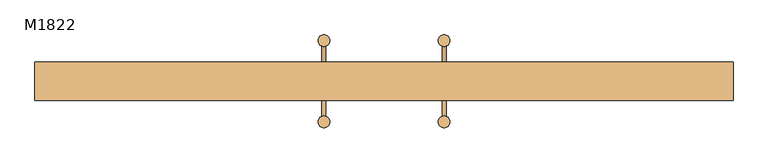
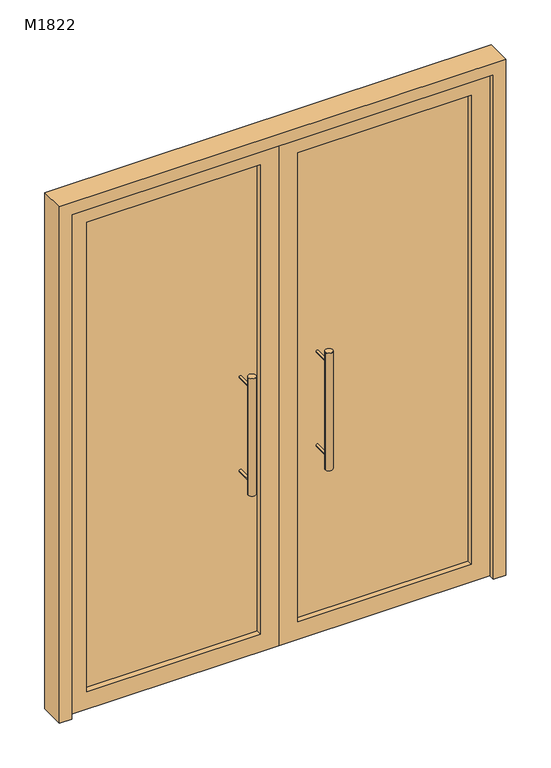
"""IFC4 building model written with IfcOpenShell, lengths in millimetres: door geometry, 双面嵌板玻璃门 : M1822."""

from ifc_helpers import new_model, si_unit, point, frame, frame_2d, origin, place, context, project, spatial, polyline, circle_curve, trimmed, segment, composite_curve, outline, extrude, source, transform, mapped, element, save


def m1822_52daa345(model_context):
    return source(origin(), model_context, "Body", "SweptSolid", [
        extrude(outline(composite_curve([segment(trimmed(circle_curve(frame_2d((155.0, 105.0)), 15.0), [point((140.0, 105.0))], [point((170.0, 105.0))], False, "CARTESIAN"), True, "CONTINUOUS"), segment(trimmed(circle_curve(frame_2d((155.0, 105.0)), 15.0), [point((170.0, 105.0))], [point((140.0, 105.0))], False, "CARTESIAN"), True, "CONTINUOUS")], self_intersect=False)), frame((0.0, 0.0, 750.0), z_axis=(0.0, 0.0, 1.0), x_axis=(1.0, 0.0, 0.0)), (0.0, 0.0, 1.0), 500.0),
        extrude(outline(composite_curve([segment(trimmed(circle_curve(frame_2d((1200.0, 155.0)), 5.0), [point((1200.0, 150.0))], [point((1200.0, 160.0))], False, "CARTESIAN"), True, "CONTINUOUS"), segment(trimmed(circle_curve(frame_2d((1200.0, 155.0)), 5.0), [point((1200.0, 160.0))], [point((1200.0, 150.0))], False, "CARTESIAN"), True, "CONTINUOUS")], self_intersect=False)), frame((0.0, 25.0, 0.0), z_axis=(0.0, 1.0, 0.0), x_axis=(0.0, 0.0, 1.0)), (0.0, 0.0, 1.0), 80.0),
        extrude(outline(composite_curve([segment(trimmed(circle_curve(frame_2d((800.0, 155.0)), 5.0), [point((800.0, 150.0))], [point((800.0, 160.0))], False, "CARTESIAN"), True, "CONTINUOUS"), segment(trimmed(circle_curve(frame_2d((800.0, 155.0)), 5.0), [point((800.0, 160.0))], [point((800.0, 150.0))], False, "CARTESIAN"), True, "CONTINUOUS")], self_intersect=False)), frame((0.0, 25.0, 0.0), z_axis=(0.0, 1.0, 0.0), x_axis=(0.0, 0.0, 1.0)), (0.0, 0.0, 1.0), 80.0),
        extrude(outline(composite_curve([segment(trimmed(circle_curve(frame_2d((1200.0, 155.0)), 5.0), [point((1200.0, 150.0))], [point((1200.0, 160.0))], False, "CARTESIAN"), True, "CONTINUOUS"), segment(trimmed(circle_curve(frame_2d((1200.0, 155.0)), 5.0), [point((1200.0, 160.0))], [point((1200.0, 150.0))], False, "CARTESIAN"), True, "CONTINUOUS")], self_intersect=False)), frame((0.0, -105.0, 0.0), z_axis=(0.0, 1.0, 0.0), x_axis=(0.0, 0.0, 1.0)), (0.0, 0.0, 1.0), 80.0),
        extrude(outline(composite_curve([segment(trimmed(circle_curve(frame_2d((800.0, 155.0)), 5.0), [point((800.0, 150.0))], [point((800.0, 160.0))], False, "CARTESIAN"), True, "CONTINUOUS"), segment(trimmed(circle_curve(frame_2d((800.0, 155.0)), 5.0), [point((800.0, 160.0))], [point((800.0, 150.0))], False, "CARTESIAN"), True, "CONTINUOUS")], self_intersect=False)), frame((0.0, -105.0, 0.0), z_axis=(0.0, 1.0, 0.0), x_axis=(0.0, 0.0, 1.0)), (0.0, 0.0, 1.0), 80.0),
        extrude(outline(composite_curve([segment(trimmed(circle_curve(frame_2d((155.0, -105.0)), 15.0), [point((140.0, -105.0))], [point((170.0, -105.0))], False, "CARTESIAN"), True, "CONTINUOUS"), segment(trimmed(circle_curve(frame_2d((155.0, -105.0)), 15.0), [point((170.0, -105.0))], [point((140.0, -105.0))], False, "CARTESIAN"), True, "CONTINUOUS")], self_intersect=False)), frame((0.0, 0.0, 750.0), z_axis=(0.0, 0.0, 1.0), x_axis=(1.0, 0.0, 0.0)), (0.0, 0.0, 1.0), 500.0),
        extrude(outline(composite_curve([segment(trimmed(circle_curve(frame_2d((-155.0, 105.0)), 15.0), [point((-170.0, 105.0))], [point((-140.0, 105.0))], False, "CARTESIAN"), True, "CONTINUOUS"), segment(trimmed(circle_curve(frame_2d((-155.0, 105.0)), 15.0), [point((-140.0, 105.0))], [point((-170.0, 105.0))], False, "CARTESIAN"), True, "CONTINUOUS")], self_intersect=False)), frame((0.0, 0.0, 750.0), z_axis=(0.0, 0.0, 1.0), x_axis=(1.0, 0.0, 0.0)), (0.0, 0.0, 1.0), 500.0),
        extrude(outline(composite_curve([segment(trimmed(circle_curve(frame_2d((1200.0, -155.0)), 5.0), [point((1200.0, -160.0))], [point((1200.0, -150.0))], False, "CARTESIAN"), True, "CONTINUOUS"), segment(trimmed(circle_curve(frame_2d((1200.0, -155.0)), 5.0), [point((1200.0, -150.0))], [point((1200.0, -160.0))], False, "CARTESIAN"), True, "CONTINUOUS")], self_intersect=False)), frame((0.0, 25.0, 0.0), z_axis=(0.0, 1.0, 0.0), x_axis=(0.0, 0.0, 1.0)), (0.0, 0.0, 1.0), 80.0),
        extrude(outline(composite_curve([segment(trimmed(circle_curve(frame_2d((800.0, -155.0)), 5.0), [point((800.0, -160.0))], [point((800.0, -150.0))], False, "CARTESIAN"), True, "CONTINUOUS"), segment(trimmed(circle_curve(frame_2d((800.0, -155.0)), 5.0), [point((800.0, -150.0))], [point((800.0, -160.0))], False, "CARTESIAN"), True, "CONTINUOUS")], self_intersect=False)), frame((0.0, 25.0, 0.0), z_axis=(0.0, 1.0, 0.0), x_axis=(0.0, 0.0, 1.0)), (0.0, 0.0, 1.0), 80.0),
        extrude(outline(composite_curve([segment(trimmed(circle_curve(frame_2d((1200.0, -155.0)), 5.0), [point((1200.0, -160.0))], [point((1200.0, -150.0))], False, "CARTESIAN"), True, "CONTINUOUS"), segment(trimmed(circle_curve(frame_2d((1200.0, -155.0)), 5.0), [point((1200.0, -150.0))], [point((1200.0, -160.0))], False, "CARTESIAN"), True, "CONTINUOUS")], self_intersect=False)), frame((0.0, -105.0, 0.0), z_axis=(0.0, 1.0, 0.0), x_axis=(0.0, 0.0, 1.0)), (0.0, 0.0, 1.0), 80.0),
        extrude(outline(composite_curve([segment(trimmed(circle_curve(frame_2d((800.0, -155.0)), 5.0), [point((800.0, -160.0))], [point((800.0, -150.0))], False, "CARTESIAN"), True, "CONTINUOUS"), segment(trimmed(circle_curve(frame_2d((800.0, -155.0)), 5.0), [point((800.0, -150.0))], [point((800.0, -160.0))], False, "CARTESIAN"), True, "CONTINUOUS")], self_intersect=False)), frame((0.0, -105.0, 0.0), z_axis=(0.0, 1.0, 0.0), x_axis=(0.0, 0.0, 1.0)), (0.0, 0.0, 1.0), 80.0),
        extrude(outline(composite_curve([segment(trimmed(circle_curve(frame_2d((-155.0, -105.0)), 15.0), [point((-170.0, -105.0))], [point((-140.0, -105.0))], False, "CARTESIAN"), True, "CONTINUOUS"), segment(trimmed(circle_curve(frame_2d((-155.0, -105.0)), 15.0), [point((-140.0, -105.0))], [point((-170.0, -105.0))], False, "CARTESIAN"), True, "CONTINUOUS")], self_intersect=False)), frame((0.0, 0.0, 750.0), z_axis=(0.0, 0.0, 1.0), x_axis=(1.0, 0.0, 0.0)), (0.0, 0.0, 1.0), 500.0),
        extrude(outline(polyline([(75.0, 2.0), (775.0, 2.0), (775.0, -2.0), (75.0, -2.0), (75.0, 2.0)])), frame((0.0, 0.0, 75.0), z_axis=(0.0, 0.0, 1.0), x_axis=(1.0, 0.0, 0.0)), (0.0, 0.0, 1.0), 2000.0),
        extrude(outline(polyline([(-775.0, 2.0), (-75.0, 2.0), (-75.0, -2.0), (-775.0, -2.0), (-775.0, 2.0)])), frame((0.0, 0.0, 75.0), z_axis=(0.0, 0.0, 1.0), x_axis=(1.0, 0.0, 0.0)), (0.0, 0.0, 1.0), 2000.0),
        extrude(outline(polyline([(2150.0, 0.0), (2150.0, -850.0), (0.0, -850.0), (0.0, 0.0), (2150.0, 0.0)]), holes=[polyline([(2075.0, -775.0), (2075.0, -75.0), (75.0, -75.0), (75.0, -775.0), (2075.0, -775.0)])]), frame((0.0, -25.0, 0.0), z_axis=(0.0, 1.0, 0.0), x_axis=(0.0, 0.0, 1.0)), (0.0, 0.0, 1.0), 50.0),
        extrude(outline(polyline([(2150.0, 0.0), (0.0, 0.0), (0.0, 850.0), (2150.0, 850.0), (2150.0, 0.0)]), holes=[polyline([(2075.0, 775.0), (75.0, 775.0), (75.0, 75.0), (2075.0, 75.0), (2075.0, 775.0)])]), frame((0.0, -25.0, 0.0), z_axis=(0.0, 1.0, 0.0), x_axis=(0.0, 0.0, 1.0)), (0.0, 0.0, 1.0), 50.0),
        extrude(outline(polyline([(2200.0, 900.0), (2200.0, -900.0), (0.0, -900.0), (0.0, -850.0), (2150.0, -850.0), (2150.0, 850.0), (0.0, 850.0), (0.0, 900.0), (2200.0, 900.0)])), frame((0.0, -50.0, 0.0), z_axis=(0.0, 1.0, 0.0), x_axis=(0.0, 0.0, 1.0)), (0.0, 0.0, 1.0), 100.0),
    ])


if __name__ == "__main__":
    model = new_model("IFC4")
    model_context = context("Model", 3, world=origin())
    ifc_project = project(units=[si_unit("LENGTHUNIT", "METRE", prefix="MILLI")], contexts=[model_context])
    site = spatial("IfcSite", under=ifc_project)
    building = spatial("IfcBuilding", under=site)
    placement = place(None, origin())
    m1822_shape = m1822_52daa345(model_context)
    element("IfcDoor", 1, ObjectType="双面嵌板玻璃门 : M1822", at=placement, inside=building, context=model_context, shape_type="MappedRepresentation", body=[
        mapped(m1822_shape, transform((0.0, 0.0, 0.0), x_axis=(1.0, 0.0, 0.0), y_axis=(0.0, 1.0, 0.0), z_axis=(0.0, 0.0, 1.0))),
    ])
    save(model, "model.ifc")
